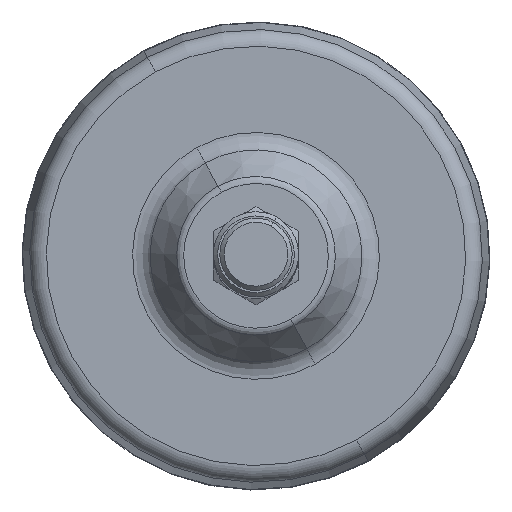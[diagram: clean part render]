
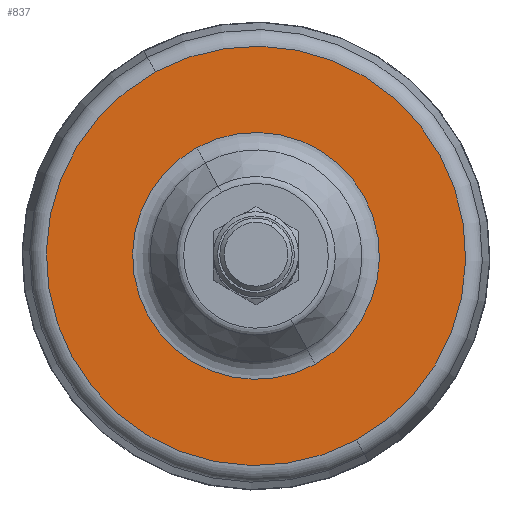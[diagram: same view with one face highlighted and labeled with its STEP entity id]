
A CAD part, top view. The second image highlights one B-rep face of the part: STEP entity #837.
In plain terms, the highlighted planar face has unit normal (0, 0, 1).
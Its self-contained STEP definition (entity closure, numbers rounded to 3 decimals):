
#776=CARTESIAN_POINT('Vertex',(23.624,-43.244,15.)) ;
#783=CARTESIAN_POINT('Vertex',(-23.624,43.244,15.)) ;
#786=CARTESIAN_POINT('Axis2P3D Location',(0.,0.,15.)) ;
#798=CARTESIAN_POINT('Axis2P3D Location',(0.,0.,15.)) ;
#810=CARTESIAN_POINT('Axis2P3D Location',(0.,29.,15.)) ;
#819=CARTESIAN_POINT('Axis2P3D Location',(0.,0.,15.)) ;
#823=CARTESIAN_POINT('Vertex',(-13.903,25.45,15.)) ;
#825=CARTESIAN_POINT('Vertex',(13.903,-25.45,15.)) ;
#828=CARTESIAN_POINT('Axis2P3D Location',(0.,0.,15.)) ;
#787=DIRECTION('Axis2P3D Direction',(0.,0.,1.)) ;
#799=DIRECTION('Axis2P3D Direction',(0.,0.,1.)) ;
#811=DIRECTION('Axis2P3D Direction',(0.,0.,1.)) ;
#812=DIRECTION('Axis2P3D XDirection',(1.,0.,0.)) ;
#820=DIRECTION('Axis2P3D Direction',(0.,0.,1.)) ;
#829=DIRECTION('Axis2P3D Direction',(0.,0.,1.)) ;
#788=AXIS2_PLACEMENT_3D('Circle Axis2P3D',#786,#787,$) ;
#800=AXIS2_PLACEMENT_3D('Circle Axis2P3D',#798,#799,$) ;
#813=AXIS2_PLACEMENT_3D('Plane Axis2P3D',#810,#811,#812) ;
#821=AXIS2_PLACEMENT_3D('Circle Axis2P3D',#819,#820,$) ;
#830=AXIS2_PLACEMENT_3D('Circle Axis2P3D',#828,#829,$) ;
#816=ORIENTED_EDGE('',*,*,#790,.T.) ;
#817=ORIENTED_EDGE('',*,*,#802,.T.) ;
#834=ORIENTED_EDGE('',*,*,#827,.F.) ;
#835=ORIENTED_EDGE('',*,*,#832,.F.) ;
#836=FACE_BOUND('',#833,.T.) ;
#837=ADVANCED_FACE('PartBody',(#818,#836),#814,.T.) ;
#789=CIRCLE('generated circle',#788,49.276) ;
#801=CIRCLE('generated circle',#800,49.276) ;
#822=CIRCLE('generated circle',#821,29.) ;
#831=CIRCLE('generated circle',#830,29.) ;
#790=EDGE_CURVE('',#777,#784,#789,.T.) ;
#802=EDGE_CURVE('',#784,#777,#801,.T.) ;
#827=EDGE_CURVE('',#824,#826,#822,.T.) ;
#832=EDGE_CURVE('',#826,#824,#831,.T.) ;
#815=EDGE_LOOP('',(#816,#817)) ;
#833=EDGE_LOOP('',(#834,#835)) ;
#818=FACE_OUTER_BOUND('',#815,.T.) ;
#814=PLANE('',#813) ;
#777=VERTEX_POINT('',#776) ;
#784=VERTEX_POINT('',#783) ;
#824=VERTEX_POINT('',#823) ;
#826=VERTEX_POINT('',#825) ;
